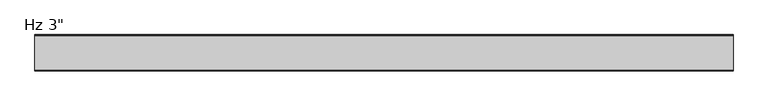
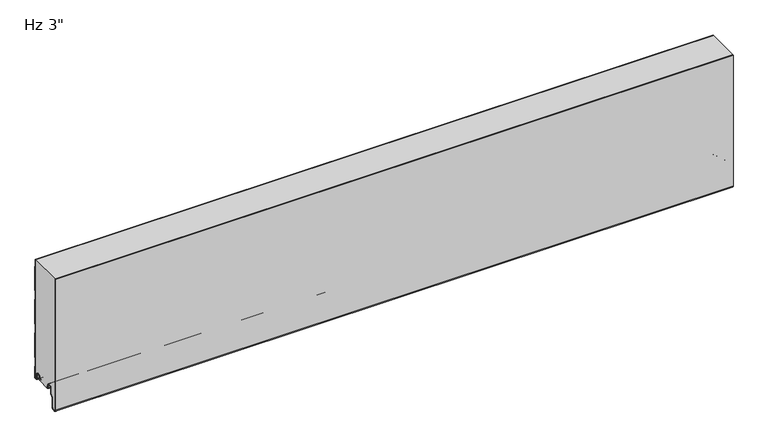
"""IFC4 building model written with IfcOpenShell, lengths in millimetres: plate geometry."""

from ifc_helpers import new_model, si_unit, point, frame, frame_2d, origin, place, context, project, spatial, polyline, circle_curve, trimmed, segment, composite_curve, outline, extrude, source, transform, mapped, element, save
from ifc_brep_helpers import plane_surface, cylinder_surface, revolved_surface, advanced_brep


def plate_96618327(model_context):
    return source(origin(), model_context, "Body", "SolidModel", [
        advanced_brep(
        [(-730.0, -17.0015159, 2.0313088), (-730.0, -18.0015191, 1.0313116), (-730.0, -19.0015105, 2.0313088), (-730.0, -19.0015105, 6.0315125), (-730.0, -18.0015159, 6.0315125), (-730.0, -18.0015159, 8.7237223), (-730.0, -14.7015202, 12.023718), (-730.0, -10.301529, 12.023718), (-730.0, -7.0015335, 8.7237225), (-730.0, -7.0015335, -1.6962564), (-730.0, -5.2315393, -3.4662506), (-730.0, -0.9999916, -3.4662506), (-730.0, -0.9999916, 21.034026), (-730.0, -2.2002307, 22.4196686), (-730.0, -2.2002307, 41.7948349), (-730.0, -1.0, 43.1804679), (-730.0, -1.0, 97.2338833), (-730.0, -2.2002307, 98.6195162), (-730.0, -2.2002307, 117.9946825), (-730.0, -1.0, 119.3803155), (-730.0, -1.0, 173.4337309), (-730.0, -2.2002307, 174.8193638), (-730.0, -2.2002307, 194.1945301), (-730.0, -1.0, 195.5801631), (-730.0, -1.0, 249.6335785), (-730.0, -2.2002307, 251.0192114), (-730.0, -2.2002307, 266.4), (-730.0, -1.2002307, 266.4), (-730.0, -1.2002307, 251.3920919), (-730.0, -0.3417885, 250.4010442), (-730.0, 0.0, 249.4844273), (-730.0, 0.0, 195.7293142), (-730.0, -0.3417885, 194.8126973), (-730.0, -1.2002307, 193.8216497), (-730.0, -1.2002307, 175.1922443), (-730.0, -0.3417885, 174.2011966), (-730.0, 0.0, 173.2845797), (-730.0, 0.0, 119.5294666), (-730.0, -0.3417885, 118.6128497), (-730.0, -1.2002307, 117.6218021), (-730.0, -1.2002307, 98.9923967), (-730.0, -0.3417885, 98.001349), (-730.0, 0.0, 97.0847321), (-730.0, 0.0, 43.329619), (-730.0, -0.3417885, 42.4130021), (-730.0, -1.2002307, 41.4219545), (-730.0, -1.2002307, 22.7925491), (-730.0, -0.3417885, 21.8015014), (-730.0, 0.0, 20.8847931), (-730.0, 8.4e-06, -3.0662545), (-730.0, -1.3999878, -4.4662506), (-730.0, -5.2315393, -4.4662506), (-730.0, -8.0015335, -1.6962564), (-730.0, -8.0015335, 8.7237225), (-730.0, -10.301529, 11.023718), (-730.0, -14.7015202, 11.023718), (-730.0, -17.0015159, 8.7237223), (730.0, -17.0015159, 2.0313088), (730.0, -17.0015159, 8.7237223), (730.0, -14.7015202, 11.023718), (730.0, -10.301529, 11.023718), (730.0, -8.0015335, 8.7237225), (730.0, -8.0015335, -1.6962564), (730.0, -5.2315393, -4.4662506), (730.0, -1.3999878, -4.4662506), (730.0, 8.4e-06, -3.0662545), (730.0, 8.4e-06, 20.8848845), (730.0, -0.3417885, 21.8015014), (730.0, -1.2002307, 22.7925491), (730.0, -1.2002307, 41.4219545), (730.0, -0.3417885, 42.4130021), (730.0, 0.0, 43.329619), (730.0, 0.0, 97.0847321), (730.0, -0.3417885, 98.001349), (730.0, -1.2002307, 98.9923967), (730.0, -1.2002307, 117.6218021), (730.0, -0.3417885, 118.6128497), (730.0, 0.0, 119.5294666), (730.0, 0.0, 173.2845797), (730.0, -0.3417885, 174.2011966), (730.0, -1.2002307, 175.1922443), (730.0, -1.2002307, 193.8216497), (730.0, -0.3417885, 194.8126973), (730.0, 0.0, 195.7293142), (730.0, 0.0, 249.4844273), (730.0, -0.3417885, 250.4010442), (730.0, -1.2002307, 251.3920919), (730.0, -1.2002307, 266.4), (730.0, -2.2002307, 266.4), (730.0, -2.2002307, 251.0192114), (730.0, -1.0, 249.6335785), (730.0, -1.0, 195.5801631), (730.0, -2.2002307, 194.1945301), (730.0, -2.2002307, 174.8193638), (730.0, -1.0, 173.4337309), (730.0, -1.0, 119.3803155), (730.0, -2.2002307, 117.9946825), (730.0, -2.2002307, 98.6195162), (730.0, -1.0, 97.2338833), (730.0, -1.0, 43.1804679), (730.0, -2.2002307, 41.7948349), (730.0, -2.2002307, 22.4196686), (730.0, -0.9999916, 21.034026), (730.0, -0.9999916, -3.4662506), (730.0, -5.2315393, -3.4662506), (730.0, -7.0015335, -1.6962564), (730.0, -7.0015335, 8.7237225), (730.0, -10.301529, 12.023718), (730.0, -14.7015202, 12.023718), (730.0, -18.0015159, 8.7237223), (730.0, -18.0015159, 6.0315125), (730.0, -19.0015105, 6.0315125), (730.0, -19.0015105, 2.0313088), (730.0, -18.0015192, 1.0313116)],
        [
            (0, 1, circle_curve(frame((-730.0, -18.0015132, 2.0313088), z_axis=(-1.0, 0.0, 0.0), x_axis=(0.0, 0.0, 1.0)), 0.9999973)),
            (1, 2, circle_curve(frame((-730.0, -18.0015133, 2.0313088), z_axis=(-1.0, 0.0, 0.0), x_axis=(0.0, 0.0, 1.0)), 0.9999972)),
            (2, 3),
            (3, 4),
            (4, 5),
            (5, 6, circle_curve(frame((-730.0, -14.7015202, 8.7237223), z_axis=(-1.0, 0.0, 0.0), x_axis=(0.0, 0.0, 1.0)), 3.2999957)),
            (6, 7),
            (7, 8, circle_curve(frame((-730.0, -10.301529, 8.7237225), z_axis=(-1.0, 0.0, 0.0), x_axis=(0.0, 0.0, 1.0)), 3.2999955)),
            (8, 9),
            (9, 10, circle_curve(frame((-730.0, -5.2315393, -1.6962564), z_axis=(1.0, 0.0, 0.0), x_axis=(0.0, 0.0, 1.0)), 1.7699942)),
            (10, 11),
            (11, 12),
            (12, 13),
            (13, 14),
            (14, 15),
            (15, 16),
            (16, 17),
            (17, 18),
            (18, 19),
            (19, 20),
            (20, 21),
            (21, 22),
            (22, 23),
            (23, 24),
            (24, 25),
            (25, 26),
            (26, 27),
            (27, 28),
            (28, 29),
            (29, 30, circle_curve(frame((-730.0, -1.3999972, 249.4844273), z_axis=(-1.0, 0.0, 0.0), x_axis=(0.0, 0.0, 1.0)), 1.3999972)),
            (30, 31),
            (31, 32, circle_curve(frame((-730.0, -1.3999972, 195.7293142), z_axis=(-1.0, 0.0, 0.0), x_axis=(0.0, 0.0, 1.0)), 1.3999972)),
            (32, 33),
            (33, 34),
            (34, 35),
            (35, 36, circle_curve(frame((-730.0, -1.3999972, 173.2845797), z_axis=(-1.0, 0.0, 0.0), x_axis=(0.0, 0.0, 1.0)), 1.3999972)),
            (36, 37),
            (37, 38, circle_curve(frame((-730.0, -1.3999972, 119.5294666), z_axis=(-1.0, 0.0, 0.0), x_axis=(0.0, 0.0, 1.0)), 1.3999972)),
            (38, 39),
            (39, 40),
            (40, 41),
            (41, 42, circle_curve(frame((-730.0, -1.3999972, 97.0847321), z_axis=(-1.0, 0.0, 0.0), x_axis=(0.0, 0.0, 1.0)), 1.3999972)),
            (42, 43),
            (43, 44, circle_curve(frame((-730.0, -1.3999972, 43.329619), z_axis=(-1.0, 0.0, 0.0), x_axis=(0.0, 0.0, 1.0)), 1.3999972)),
            (44, 45),
            (45, 46),
            (46, 47),
            (47, 48, circle_curve(frame((-730.0, -1.3999972, 20.8848845), z_axis=(-1.0, 0.0, 0.0), x_axis=(0.0, 0.0, 1.0)), 1.3999972)),
            (48, 49),
            (49, 50, circle_curve(frame((-730.0, -1.3999878, -3.0662545), z_axis=(-1.0, 0.0, 0.0), x_axis=(0.0, 0.0, 1.0)), 1.3999962)),
            (50, 51),
            (51, 52, circle_curve(frame((-730.0, -5.2315393, -1.6962564), z_axis=(-1.0, 0.0, 0.0), x_axis=(0.0, 0.0, 1.0)), 2.7699942)),
            (52, 53),
            (53, 54, circle_curve(frame((-730.0, -10.301529, 8.7237225), z_axis=(1.0, 0.0, 0.0), x_axis=(0.0, 0.0, 1.0)), 2.2999955)),
            (54, 55),
            (55, 56, circle_curve(frame((-730.0, -14.7015202, 8.7237223), z_axis=(1.0, 0.0, 0.0), x_axis=(0.0, 0.0, 1.0)), 2.2999957)),
            (56, 0),
            (57, 58),
            (58, 59, circle_curve(frame((730.0, -14.7015202, 8.7237223), z_axis=(-1.0, 0.0, 0.0), x_axis=(0.0, 0.0, 1.0)), 2.2999957)),
            (59, 60),
            (60, 61, circle_curve(frame((730.0, -10.301529, 8.7237225), z_axis=(-1.0, 0.0, 0.0), x_axis=(0.0, 0.0, 1.0)), 2.2999955)),
            (61, 62),
            (62, 63, circle_curve(frame((730.0, -5.2315393, -1.6962564), z_axis=(1.0, 0.0, 0.0), x_axis=(0.0, 0.0, 1.0)), 2.7699942)),
            (63, 64),
            (64, 65, circle_curve(frame((730.0, -1.3999878, -3.0662545), z_axis=(1.0, 0.0, 0.0), x_axis=(0.0, 0.0, 1.0)), 1.3999962)),
            (65, 66),
            (66, 67, circle_curve(frame((730.0, -1.3999972, 20.8848845), z_axis=(1.0, 0.0, 0.0), x_axis=(0.0, 0.0, 1.0)), 1.3999972)),
            (67, 68),
            (68, 69),
            (69, 70),
            (70, 71, circle_curve(frame((730.0, -1.3999972, 43.329619), z_axis=(1.0, 0.0, 0.0), x_axis=(0.0, 0.0, 1.0)), 1.3999972)),
            (71, 72),
            (72, 73, circle_curve(frame((730.0, -1.3999972, 97.0847321), z_axis=(1.0, 0.0, 0.0), x_axis=(0.0, 0.0, 1.0)), 1.3999972)),
            (73, 74),
            (74, 75),
            (75, 76),
            (76, 77, circle_curve(frame((730.0, -1.3999972, 119.5294666), z_axis=(1.0, 0.0, 0.0), x_axis=(0.0, 0.0, 1.0)), 1.3999972)),
            (77, 78),
            (78, 79, circle_curve(frame((730.0, -1.3999972, 173.2845797), z_axis=(1.0, 0.0, 0.0), x_axis=(0.0, 0.0, 1.0)), 1.3999972)),
            (79, 80),
            (80, 81),
            (81, 82),
            (82, 83, circle_curve(frame((730.0, -1.3999972, 195.7293142), z_axis=(1.0, 0.0, 0.0), x_axis=(0.0, 0.0, 1.0)), 1.3999972)),
            (83, 84),
            (84, 85, circle_curve(frame((730.0, -1.3999972, 249.4844273), z_axis=(1.0, 0.0, 0.0), x_axis=(0.0, 0.0, 1.0)), 1.3999972)),
            (85, 86),
            (86, 87),
            (87, 88),
            (88, 89),
            (89, 90),
            (90, 91),
            (91, 92),
            (92, 93),
            (93, 94),
            (94, 95),
            (95, 96),
            (96, 97),
            (97, 98),
            (98, 99),
            (99, 100),
            (100, 101),
            (101, 102),
            (102, 103),
            (103, 104),
            (104, 105, circle_curve(frame((730.0, -5.2315393, -1.6962564), z_axis=(-1.0, 0.0, 0.0), x_axis=(0.0, 0.0, 1.0)), 1.7699942)),
            (105, 106),
            (106, 107, circle_curve(frame((730.0, -10.301529, 8.7237225), z_axis=(1.0, 0.0, 0.0), x_axis=(0.0, 0.0, 1.0)), 3.2999955)),
            (107, 108),
            (108, 109, circle_curve(frame((730.0, -14.7015202, 8.7237223), z_axis=(1.0, 0.0, 0.0), x_axis=(0.0, 0.0, 1.0)), 3.2999957)),
            (109, 110),
            (110, 111),
            (111, 112),
            (112, 113, circle_curve(frame((730.0, -18.0015133, 2.0313088), z_axis=(1.0, 0.0, 0.0), x_axis=(0.0, 0.0, 1.0)), 0.9999972)),
            (113, 57, circle_curve(frame((730.0, -18.0015132, 2.0313088), z_axis=(1.0, 0.0, 0.0), x_axis=(0.0, 0.0, 1.0)), 0.9999973)),
            (26, 88),
            (87, 27),
            (56, 58),
            (57, 0),
            (55, 59),
            (54, 60),
            (53, 61),
            (52, 62),
            (51, 63),
            (50, 64),
            (49, 65),
            (48, 66),
            (47, 67),
            (46, 68),
            (45, 69),
            (44, 70),
            (43, 71),
            (42, 72),
            (41, 73),
            (40, 74),
            (39, 75),
            (38, 76),
            (37, 77),
            (36, 78),
            (19, 95),
            (94, 20),
            (18, 96),
            (17, 97),
            (16, 98),
            (15, 99),
            (14, 100),
            (13, 101),
            (12, 102),
            (11, 103),
            (10, 104),
            (9, 105),
            (8, 106),
            (7, 107),
            (6, 108),
            (5, 109),
            (4, 110),
            (3, 111),
            (2, 112),
            (1, 113),
            (35, 79),
            (34, 80),
            (33, 81),
            (32, 82),
            (31, 83),
            (30, 84),
            (29, 85),
            (28, 86),
            (25, 89),
            (24, 90),
            (23, 91),
            (22, 92),
            (21, 93),
        ],
        [
            plane_surface(frame((-730.0, 0.0, 533.4), z_axis=(-1.0, 0.0, 0.0), x_axis=(0.0, 1.0, 0.0))),
            plane_surface(frame((730.0, 0.0, 533.4), z_axis=(1.0, 0.0, 0.0), x_axis=(0.0, 1.0, 0.0))),
            plane_surface(frame((730.0, 10.0, 266.4), z_axis=(0.0, 0.0, 1.0), x_axis=(-1.0, 0.0, 0.0))),
            plane_surface(frame((-730.0, -17.0015159, 2.0313088), z_axis=(0.0, 1.0, 0.0), x_axis=(1.0, 0.0, 0.0))),
            revolved_surface(polyline([(730.0, -14.7015202, 11.023718), (-730.0, -14.7015202, 11.023718)]), (-730.0, -14.7015202, 8.7237223), (1.0, 0.0, 0.0)),
            plane_surface(frame((-730.0, -14.7015202, 11.023718), z_axis=(0.0, 0.0, -1.0), x_axis=(1.0, 0.0, 0.0))),
            revolved_surface(polyline([(730.0, -10.301529, 11.023717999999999), (-730.0, -10.301529, 11.023717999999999)]), (-730.0, -10.301529, 8.7237225), (1.0, 0.0, 0.0)),
            plane_surface(frame((-730.0, -8.0015335, 8.7237225), z_axis=(0.0, -1.0, 0.0), x_axis=(1.0, 0.0, 0.0))),
            cylinder_surface(frame((-730.0, -5.2315393, -1.6962564), z_axis=(-1.0, 0.0, 0.0), x_axis=(0.0, 0.0, 1.0)), 2.7699942),
            plane_surface(frame((-730.0, -5.2315393, -4.4662506), z_axis=(0.0, 0.0, -1.0), x_axis=(1.0, 0.0, 0.0))),
            cylinder_surface(frame((-730.0, -1.3999878, -3.0662545), z_axis=(-1.0, 0.0, 0.0), x_axis=(0.0, 0.0, 1.0)), 1.3999962),
            plane_surface(frame((-730.0, 8.4e-06, -3.0662545), z_axis=(0.0, 1.0, 0.0), x_axis=(1.0, 0.0, 0.0))),
            cylinder_surface(frame((-730.0, -1.3999972, 20.8848845), z_axis=(-1.0, 0.0, 0.0), x_axis=(0.0, 0.0, 1.0)), 1.3999972),
            plane_surface(frame((-730.0, -0.3417885, 21.8015014), z_axis=(0.0, 0.755864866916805, 0.6547276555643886), x_axis=(1.0, 0.0, 0.0))),
            plane_surface(frame((-730.0, -1.2002307, 32.1072518), z_axis=(0.0, 1.0, 0.0), x_axis=(1.0, 0.0, 0.0))),
            plane_surface(frame((-730.0, -1.2002307, 41.4219545), z_axis=(0.0, 0.755864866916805, -0.6547276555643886), x_axis=(1.0, 0.0, 0.0))),
            cylinder_surface(frame((-730.0, -1.3999972, 43.329619), z_axis=(-1.0, 0.0, 0.0), x_axis=(0.0, 0.0, 1.0)), 1.3999972),
            plane_surface(frame((-730.0, 0.0, 43.329619), z_axis=(0.0, 1.0, 0.0), x_axis=(1.0, 0.0, 0.0))),
            cylinder_surface(frame((-730.0, -1.3999972, 97.0847321), z_axis=(-1.0, 0.0, 0.0), x_axis=(0.0, 0.0, 1.0)), 1.3999972),
            plane_surface(frame((-730.0, -0.3417885, 98.001349), z_axis=(0.0, 0.755864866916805, 0.6547276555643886), x_axis=(1.0, 0.0, 0.0))),
            plane_surface(frame((-730.0, -1.2002307, 108.3070994), z_axis=(0.0, 1.0, 0.0), x_axis=(1.0, 0.0, 0.0))),
            plane_surface(frame((-730.0, -1.2002307, 117.6218021), z_axis=(0.0, 0.755864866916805, -0.6547276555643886), x_axis=(1.0, 0.0, 0.0))),
            cylinder_surface(frame((-730.0, -1.3999972, 119.5294666), z_axis=(-1.0, 0.0, 0.0), x_axis=(0.0, 0.0, 1.0)), 1.3999972),
            plane_surface(frame((-730.0, 0.0, 119.5294666), z_axis=(0.0, 1.0, 0.0), x_axis=(1.0, 0.0, 0.0))),
            plane_surface(frame((-730.0, -1.0, 173.4337309), z_axis=(0.0, -1.0, 0.0), x_axis=(1.0, 0.0, 0.0))),
            plane_surface(frame((-730.0, -1.0, 119.3803155), z_axis=(0.0, -0.755864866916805, 0.6547276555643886), x_axis=(1.0, 0.0, 0.0))),
            plane_surface(frame((-730.0, -2.2002307, 117.9946825), z_axis=(0.0, -1.0, 0.0), x_axis=(1.0, 0.0, 0.0))),
            plane_surface(frame((-730.0, -2.2002307, 98.6195162), z_axis=(0.0, -0.755864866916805, -0.6547276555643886), x_axis=(1.0, 0.0, 0.0))),
            plane_surface(frame((-730.0, -1.0, 97.2338833), z_axis=(0.0, -1.0, 0.0), x_axis=(1.0, 0.0, 0.0))),
            plane_surface(frame((-730.0, -1.0, 43.1804679), z_axis=(0.0, -0.755864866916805, 0.6547276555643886), x_axis=(1.0, 0.0, 0.0))),
            plane_surface(frame((-730.0, -2.2002307, 41.7948349), z_axis=(0.0, -1.0, 0.0), x_axis=(1.0, 0.0, 0.0))),
            plane_surface(frame((-730.0, -2.2002307, 22.4196686), z_axis=(0.0, -0.755864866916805, -0.6547276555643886), x_axis=(1.0, 0.0, 0.0))),
            plane_surface(frame((-730.0, -0.9999916, 21.034026), z_axis=(0.0, -1.0, 0.0), x_axis=(1.0, 0.0, 0.0))),
            plane_surface(frame((-730.0, -0.9999916, -3.4662506), z_axis=(0.0, 0.0, 1.0), x_axis=(1.0, 0.0, 0.0))),
            revolved_surface(polyline([(730.0, -5.2315393, 0.07373779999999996), (-730.0, -5.2315393, 0.07373779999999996)]), (-730.0, -5.2315393, -1.6962564), (1.0, 0.0, 0.0)),
            plane_surface(frame((-730.0, -7.0015335, -1.6962564), z_axis=(0.0, 1.0, 0.0), x_axis=(1.0, 0.0, 0.0))),
            cylinder_surface(frame((-730.0, -10.301529, 8.7237225), z_axis=(-1.0, 0.0, 0.0), x_axis=(0.0, 0.0, 1.0)), 3.2999955),
            plane_surface(frame((-730.0, -10.301529, 12.023718), z_axis=(0.0, 0.0, 1.0), x_axis=(1.0, 0.0, 0.0))),
            cylinder_surface(frame((-730.0, -14.7015202, 8.7237223), z_axis=(-1.0, 0.0, 0.0), x_axis=(0.0, 0.0, 1.0)), 3.2999957),
            plane_surface(frame((-730.0, -18.0015159, 8.7237223), z_axis=(0.0, -1.0, 0.0), x_axis=(1.0, 0.0, 0.0))),
            plane_surface(frame((-730.0, -18.0015159, 6.0315125), z_axis=(0.0, 0.0, 1.0), x_axis=(1.0, 0.0, 0.0))),
            plane_surface(frame((-730.0, -19.0015105, 6.0315125), z_axis=(0.0, -1.0, 0.0), x_axis=(1.0, 0.0, 0.0))),
            cylinder_surface(frame((-730.0, -18.0015133, 2.0313088), z_axis=(-1.0, 0.0, 0.0), x_axis=(0.0, 0.0, 1.0)), 0.9999972),
            cylinder_surface(frame((-730.0, -18.0015132, 2.0313088), z_axis=(-1.0, 0.0, 0.0), x_axis=(0.0, 0.0, 1.0)), 0.9999973),
            cylinder_surface(frame((-730.0, -1.3999972, 173.2845797), z_axis=(-1.0, 0.0, 0.0), x_axis=(0.0, 0.0, 1.0)), 1.3999972),
            plane_surface(frame((-730.0, -0.3417885, 174.2011966), z_axis=(0.0, 0.755864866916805, 0.6547276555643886), x_axis=(1.0, 0.0, 0.0))),
            plane_surface(frame((-730.0, -1.2002307, 184.506947), z_axis=(0.0, 1.0, 0.0), x_axis=(1.0, 0.0, 0.0))),
            plane_surface(frame((-730.0, -1.2002307, 193.8216497), z_axis=(0.0, 0.755864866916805, -0.6547276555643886), x_axis=(1.0, 0.0, 0.0))),
            cylinder_surface(frame((-730.0, -1.3999972, 195.7293142), z_axis=(-1.0, 0.0, 0.0), x_axis=(0.0, 0.0, 1.0)), 1.3999972),
            plane_surface(frame((-730.0, 0.0, 195.7293142), z_axis=(0.0, 1.0, 0.0), x_axis=(1.0, 0.0, 0.0))),
            cylinder_surface(frame((-730.0, -1.3999972, 249.4844273), z_axis=(-1.0, 0.0, 0.0), x_axis=(0.0, 0.0, 1.0)), 1.3999972),
            plane_surface(frame((-730.0, -0.3417885, 250.4010442), z_axis=(0.0, 0.755864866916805, 0.6547276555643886), x_axis=(1.0, 0.0, 0.0))),
            plane_surface(frame((-730.0, -1.2002307, 260.7067946), z_axis=(0.0, 1.0, 0.0), x_axis=(1.0, 0.0, 0.0))),
            plane_surface(frame((-730.0, -2.2002307, 270.3943777), z_axis=(0.0, -1.0, 0.0), x_axis=(1.0, 0.0, 0.0))),
            plane_surface(frame((-730.0, -2.2002307, 251.0192114), z_axis=(0.0, -0.755864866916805, -0.6547276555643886), x_axis=(1.0, 0.0, 0.0))),
            plane_surface(frame((-730.0, -1.0, 249.6335785), z_axis=(0.0, -1.0, 0.0), x_axis=(1.0, 0.0, 0.0))),
            plane_surface(frame((-730.0, -1.0, 195.5801631), z_axis=(0.0, -0.755864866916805, 0.6547276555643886), x_axis=(1.0, 0.0, 0.0))),
            plane_surface(frame((-730.0, -2.2002307, 194.1945301), z_axis=(0.0, -1.0, 0.0), x_axis=(1.0, 0.0, 0.0))),
            plane_surface(frame((-730.0, -2.2002307, 174.8193638), z_axis=(0.0, -0.755864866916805, -0.6547276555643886), x_axis=(1.0, 0.0, 0.0))),
        ],
        [
            (0, [[1, 2, 3, 4, 5, 6, 7, 8, 9, 10, 11, 12, 13, 14, 15, 16, 17, 18, 19, 20, 21, 22, 23, 24, 25, 26, 27, 28, 29, 30, 31, 32, 33, 34, 35, 36, 37, 38, 39, 40, 41, 42, 43, 44, 45, 46, 47, 48, 49, 50, 51, 52, 53, 54, 55, 56, 57]]),
            (1, [[58, 59, 60, 61, 62, 63, 64, 65, 66, 67, 68, 69, 70, 71, 72, 73, 74, 75, 76, 77, 78, 79, 80, 81, 82, 83, 84, 85, 86, 87, 88, 89, 90, 91, 92, 93, 94, 95, 96, 97, 98, 99, 100, 101, 102, 103, 104, 105, 106, 107, 108, 109, 110, 111, 112, 113, 114]]),
            (2, [[115, -88, 116, -27]]),
            (3, [[117, -58, 118, -57]]),
            (4, [[119, -59, -117, -56]]),
            (5, [[120, -60, -119, -55]]),
            (6, [[121, -61, -120, -54]]),
            (7, [[122, -62, -121, -53]]),
            (8, [[123, -63, -122, -52]]),
            (9, [[124, -64, -123, -51]]),
            (10, [[125, -65, -124, -50]]),
            (11, [[126, -66, -125, -49]]),
            (12, [[127, -67, -126, -48]]),
            (13, [[128, -68, -127, -47]]),
            (14, [[129, -69, -128, -46]]),
            (15, [[130, -70, -129, -45]]),
            (16, [[131, -71, -130, -44]]),
            (17, [[132, -72, -131, -43]]),
            (18, [[133, -73, -132, -42]]),
            (19, [[134, -74, -133, -41]]),
            (20, [[135, -75, -134, -40]]),
            (21, [[136, -76, -135, -39]]),
            (22, [[137, -77, -136, -38]]),
            (23, [[138, -78, -137, -37]]),
            (24, [[139, -95, 140, -20]]),
            (25, [[141, -96, -139, -19]]),
            (26, [[142, -97, -141, -18]]),
            (27, [[143, -98, -142, -17]]),
            (28, [[144, -99, -143, -16]]),
            (29, [[145, -100, -144, -15]]),
            (30, [[146, -101, -145, -14]]),
            (31, [[147, -102, -146, -13]]),
            (32, [[148, -103, -147, -12]]),
            (33, [[149, -104, -148, -11]]),
            (34, [[150, -105, -149, -10]]),
            (35, [[151, -106, -150, -9]]),
            (36, [[152, -107, -151, -8]]),
            (37, [[153, -108, -152, -7]]),
            (38, [[154, -109, -153, -6]]),
            (39, [[155, -110, -154, -5]]),
            (40, [[156, -111, -155, -4]]),
            (41, [[157, -112, -156, -3]]),
            (42, [[158, -113, -157, -2]]),
            (43, [[-118, -114, -158, -1]]),
            (44, [[159, -79, -138, -36]]),
            (45, [[160, -80, -159, -35]]),
            (46, [[161, -81, -160, -34]]),
            (47, [[162, -82, -161, -33]]),
            (48, [[163, -83, -162, -32]]),
            (49, [[164, -84, -163, -31]]),
            (50, [[165, -85, -164, -30]]),
            (51, [[166, -86, -165, -29]]),
            (52, [[-28, -116, -87, -166]]),
            (53, [[-89, -115, -26, 167]]),
            (54, [[168, -90, -167, -25]]),
            (55, [[169, -91, -168, -24]]),
            (56, [[170, -92, -169, -23]]),
            (57, [[171, -93, -170, -22]]),
            (58, [[-140, -94, -171, -21]]),
        ],
    ),
        extrude(outline(composite_curve([segment(trimmed(circle_curve(frame_2d((-72.6304001, -32.4521176)), 3.5702393), [point((-72.3191297, -36.008762))], [point((-76.2, -32.5196853))], False, "CARTESIAN"), True, "CONTINUOUS"), segment(polyline([(-76.2, -32.5196853), (-76.2, 266.4), (-75.2, 266.4), (-75.2, -32.509446)]), True, "CONTINUOUS"), segment(trimmed(circle_curve(frame_2d((-72.6304001, -32.4521176)), 2.5702393), [point((-75.2, -32.509446))], [point((-72.4063145, -35.0125699))], True, "CARTESIAN"), True, "CONTINUOUS"), segment(polyline([(-72.4063145, -35.0125699), (-67.4244936, -34.5765709)]), True, "CONTINUOUS"), segment(trimmed(circle_curve(frame_2d((-67.9058842, -31.9198392)), 2.6999926), [point((-67.4244936, -34.5765709))], [point((-65.2058916, -31.9198392))], True, "CARTESIAN"), True, "CONTINUOUS"), segment(polyline([(-65.2058916, -31.9198392), (-65.2058916, -9.8247096), (-59.7038205, -4.3226385)]), True, "CONTINUOUS"), segment(trimmed(circle_curve(frame_2d((-60.9058982, -3.1205608)), 1.6999946), [point((-59.7038205, -4.3226385))], [point((-59.2059036, -3.1205608))], True, "CARTESIAN"), True, "CONTINUOUS"), segment(polyline([(-59.2059036, -3.1205608), (-59.2059036, 8.6903283)]), True, "CONTINUOUS"), segment(trimmed(circle_curve(frame_2d((-55.8559083, 8.6903283)), 3.3499953), [point((-59.2059036, 8.6903283))], [point((-55.8559083, 12.0403236))], False, "CARTESIAN"), True, "CONTINUOUS"), segment(polyline([(-55.8559083, 12.0403236), (-51.4559171, 12.0403236)]), True, "CONTINUOUS"), segment(trimmed(circle_curve(frame_2d((-51.4559171, 8.6903283)), 3.3499953), [point((-51.4559171, 12.0403236))], [point((-48.1059218, 8.6903283))], False, "CARTESIAN"), True, "CONTINUOUS"), segment(polyline([(-48.1059218, 8.6903283), (-48.1059218, 5.9912173), (-46.7074429, 5.9912173), (-46.7074429, 2.2328239)]), True, "CONTINUOUS"), segment(trimmed(circle_curve(frame_2d((-47.9074396, 2.2313092)), 1.1999976), [point((-46.7074429, 2.2328239))], [point((-47.8769177, 1.0316999))], False, "CARTESIAN"), True, "CONTINUOUS"), segment(trimmed(circle_curve(frame_2d((-47.9074396, 2.2313092)), 1.1999976), [point((-47.8769177, 1.0316999))], [point((-49.1059218, 2.1710221))], False, "CARTESIAN"), True, "CONTINUOUS"), segment(polyline([(-49.1059218, 2.1710221), (-49.1059218, 8.6903283)]), True, "CONTINUOUS"), segment(trimmed(circle_curve(frame_2d((-51.4559171, 8.6903283)), 2.3499953), [point((-49.1059218, 8.6903283))], [point((-51.4559171, 11.0403236))], True, "CARTESIAN"), True, "CONTINUOUS"), segment(polyline([(-51.4559171, 11.0403236), (-55.8559083, 11.0403236)]), True, "CONTINUOUS"), segment(trimmed(circle_curve(frame_2d((-55.8559083, 8.6903283)), 2.3499953), [point((-55.8559083, 11.0403236))], [point((-58.2059036, 8.6903283))], True, "CARTESIAN"), True, "CONTINUOUS"), segment(polyline([(-58.2059036, 8.6903283), (-58.2059036, -3.1205608)]), True, "CONTINUOUS"), segment(trimmed(circle_curve(frame_2d((-60.9058982, -3.1205608)), 2.6999946), [point((-58.2059036, -3.1205608))], [point((-58.9967137, -5.0297453))], False, "CARTESIAN"), True, "CONTINUOUS"), segment(polyline([(-58.9967137, -5.0297453), (-63.8251312, -9.8581627)]), True, "CONTINUOUS"), segment(trimmed(circle_curve(frame_2d((-62.9058942, -10.7773997)), 1.2999974), [point((-63.8251312, -9.8581627))], [point((-64.2058916, -10.7773997))], True, "CARTESIAN"), True, "CONTINUOUS"), segment(polyline([(-64.2058916, -10.7773997), (-64.2058916, -31.9198392)]), True, "CONTINUOUS"), segment(trimmed(circle_curve(frame_2d((-67.9058842, -31.9198392)), 3.6999926), [point((-64.2058916, -31.9198392))], [point((-67.2950831, -35.5690675))], False, "CARTESIAN"), True, "CONTINUOUS"), segment(polyline([(-67.2950831, -35.5690675), (-72.3191297, -36.008762)]), True, "CONTINUOUS")], self_intersect=False)), frame((-730.0, 0.0, 0.0), z_axis=(1.0, 0.0, 0.0), x_axis=(0.0, 1.0, 0.0)), (0.0, 0.0, 1.0), 1460.0),
        advanced_brep(
        [(-730.0, -47.870875, 1.0316999), (-730.0, -46.7014003, 2.2328239), (-730.0, -46.7014003, 5.9912173), (-730.0, -48.0998791, 5.9912173), (-730.0, -48.0998791, 8.6903283), (-730.0, -51.4498744, 12.0403236), (-730.0, -55.8498656, 12.0403236), (-730.0, -59.1998609, 8.6903283), (-730.0, -59.1998609, -3.1205608), (-730.0, -59.6977778, -4.3226385), (-730.0, -65.1998489, -9.8247096), (-730.0, -65.1998489, -31.9198392), (-730.0, -67.4184509, -34.5765709), (-730.0, -72.4002718, -35.0125699), (-730.0, -75.1945967, -32.4521176), (-730.0, -75.2, 266.4), (-730.0, -2.2002307, 266.4), (-730.0, -2.2002307, 251.0192115), (-730.0, -1.0, 249.6335785), (-730.0, -1.0, 195.5801631), (-730.0, -2.2002307, 194.1945302), (-730.0, -2.2002307, 174.8193639), (-730.0, -1.0, 173.4337309), (-730.0, -1.0, 119.3803155), (-730.0, -2.2002307, 117.9946826), (-730.0, -2.2002307, 98.6195163), (-730.0, -1.0, 97.2338833), (-730.0, -1.0, 43.1804679), (-730.0, -2.2002307, 41.794835), (-730.0, -2.2002307, 22.4196687), (-730.0, -0.9999916, 21.034026), (-730.0, -0.9999916, -3.4662506), (-730.0, -5.2315389, -3.4662506), (-730.0, -7.0015331, -1.6962564), (-730.0, -7.0015331, 8.7237222), (-730.0, -10.301529, 12.023718), (-730.0, -14.7015202, 12.023718), (-730.0, -18.0015159, 8.7237223), (-730.0, -18.0015159, 6.0315125), (-730.0, -19.0015105, 6.0315125), (-730.0, -19.0015105, 2.0313089), (-730.0, -18.0015192, 1.0313117), (-730.0, -19.0328308, 0.0), (-730.0, -46.8391751, 0.0), (730.0, -47.870875, 1.0316999), (730.0, -46.8391751, 0.0), (730.0, -19.0328308, 0.0), (730.0, -18.0015192, 1.0313117), (730.0, -19.0015105, 2.0313089), (730.0, -19.0015105, 6.0315125), (730.0, -18.0015159, 6.0315125), (730.0, -18.0015159, 8.7237223), (730.0, -14.7015202, 12.023718), (730.0, -10.301529, 12.023718), (730.0, -7.0015331, 8.7237222), (730.0, -7.0015331, -1.6962564), (730.0, -5.2315389, -3.4662506), (730.0, -0.9999916, -3.4662506), (730.0, -0.9999916, 21.034026), (730.0, -2.2002307, 22.4196687), (730.0, -2.2002307, 41.794835), (730.0, -1.0, 43.1804679), (730.0, -1.0, 97.2338833), (730.0, -2.2002307, 98.6195163), (730.0, -2.2002307, 117.9946826), (730.0, -1.0, 119.3803155), (730.0, -1.0, 173.4337309), (730.0, -2.2002307, 174.8193639), (730.0, -2.2002307, 194.1945302), (730.0, -1.0, 195.5801631), (730.0, -1.0, 249.6335785), (730.0, -2.2002307, 251.0192115), (730.0, -2.2002307, 266.4), (730.0, -75.2, 266.4), (730.0, -75.2, -32.4521176), (730.0, -72.4002718, -35.0125699), (730.0, -67.4184509, -34.5765709), (730.0, -65.1998489, -31.9198392), (730.0, -65.1998489, -9.8247096), (730.0, -59.6977778, -4.3226385), (730.0, -59.1998609, -3.1205608), (730.0, -59.1998609, 8.6903283), (730.0, -55.8498656, 12.0403236), (730.0, -51.4498744, 12.0403236), (730.0, -48.0998791, 8.6903283), (730.0, -48.0998791, 5.9912173), (730.0, -46.7014003, 5.9912173), (730.0, -46.7014003, 2.2328239)],
        [
            (0, 1, circle_curve(frame((-730.0, -47.9013969, 2.2313092), z_axis=(1.0, 0.0, 0.0), x_axis=(0.0, 0.0, -1.0)), 1.1999976)),
            (1, 2),
            (2, 3),
            (3, 4),
            (4, 5, circle_curve(frame((-730.0, -51.4498744, 8.6903283), z_axis=(1.0, 0.0, 0.0), x_axis=(0.0, 0.0, -1.0)), 3.3499953)),
            (5, 6),
            (6, 7, circle_curve(frame((-730.0, -55.8498656, 8.6903283), z_axis=(1.0, 0.0, 0.0), x_axis=(0.0, 0.0, -1.0)), 3.3499953)),
            (7, 8),
            (8, 9, circle_curve(frame((-730.0, -60.8998555, -3.1205608), z_axis=(-1.0, 0.0, 0.0), x_axis=(0.0, 0.0, -1.0)), 1.6999946)),
            (9, 10),
            (10, 11),
            (11, 12, circle_curve(frame((-730.0, -67.8998415, -31.9198392), z_axis=(-1.0, 0.0, 0.0), x_axis=(0.0, 0.0, -1.0)), 2.6999926)),
            (12, 13),
            (13, 14, circle_curve(frame((-730.0, -72.6243575, -32.4521176), z_axis=(-1.0, 0.0, 0.0), x_axis=(0.0, 0.0, -1.0)), 2.5702393)),
            (14, 15),
            (15, 16),
            (16, 17),
            (17, 18),
            (18, 19),
            (19, 20),
            (20, 21),
            (21, 22),
            (22, 23),
            (23, 24),
            (24, 25),
            (25, 26),
            (26, 27),
            (27, 28),
            (28, 29),
            (29, 30),
            (30, 31),
            (31, 32),
            (32, 33, circle_curve(frame((-730.0, -5.2315389, -1.6962564), z_axis=(-1.0, 0.0, 0.0), x_axis=(0.0, 0.0, -1.0)), 1.7699942)),
            (33, 34),
            (34, 35, circle_curve(frame((-730.0, -10.301529, 8.7237222), z_axis=(1.0, 0.0, 0.0), x_axis=(0.0, 0.0, -1.0)), 3.2999959)),
            (35, 36),
            (36, 37, circle_curve(frame((-730.0, -14.7015202, 8.7237223), z_axis=(1.0, 0.0, 0.0), x_axis=(0.0, 0.0, -1.0)), 3.2999957)),
            (37, 38),
            (38, 39),
            (39, 40),
            (40, 41, circle_curve(frame((-730.0, -18.0015133, 2.0313089), z_axis=(1.0, 0.0, 0.0), x_axis=(0.0, 0.0, -1.0)), 0.9999972)),
            (41, 42),
            (42, 43),
            (43, 0),
            (44, 45),
            (45, 46),
            (46, 47),
            (47, 48, circle_curve(frame((730.0, -18.0015133, 2.0313089), z_axis=(-1.0, 0.0, 0.0), x_axis=(0.0, 0.0, -1.0)), 0.9999972)),
            (48, 49),
            (49, 50),
            (50, 51),
            (51, 52, circle_curve(frame((730.0, -14.7015202, 8.7237223), z_axis=(-1.0, 0.0, 0.0), x_axis=(0.0, 0.0, -1.0)), 3.2999957)),
            (52, 53),
            (53, 54, circle_curve(frame((730.0, -10.301529, 8.7237222), z_axis=(-1.0, 0.0, 0.0), x_axis=(0.0, 0.0, -1.0)), 3.2999959)),
            (54, 55),
            (55, 56, circle_curve(frame((730.0, -5.2315389, -1.6962564), z_axis=(1.0, 0.0, 0.0), x_axis=(0.0, 0.0, -1.0)), 1.7699942)),
            (56, 57),
            (57, 58),
            (58, 59),
            (59, 60),
            (60, 61),
            (61, 62),
            (62, 63),
            (63, 64),
            (64, 65),
            (65, 66),
            (66, 67),
            (67, 68),
            (68, 69),
            (69, 70),
            (70, 71),
            (71, 72),
            (72, 73),
            (73, 74),
            (74, 75, circle_curve(frame((730.0, -72.6243575, -32.4521176), z_axis=(1.0, 0.0, 0.0), x_axis=(0.0, 0.0, -1.0)), 2.5702393)),
            (75, 76),
            (76, 77, circle_curve(frame((730.0, -67.8998415, -31.9198392), z_axis=(1.0, 0.0, 0.0), x_axis=(0.0, 0.0, -1.0)), 2.6999926)),
            (77, 78),
            (78, 79),
            (79, 80, circle_curve(frame((730.0, -60.8998555, -3.1205608), z_axis=(1.0, 0.0, 0.0), x_axis=(0.0, 0.0, -1.0)), 1.6999946)),
            (80, 81),
            (81, 82, circle_curve(frame((730.0, -55.8498656, 8.6903283), z_axis=(-1.0, 0.0, 0.0), x_axis=(0.0, 0.0, -1.0)), 3.3499953)),
            (82, 83),
            (83, 84, circle_curve(frame((730.0, -51.4498744, 8.6903283), z_axis=(-1.0, 0.0, 0.0), x_axis=(0.0, 0.0, -1.0)), 3.3499953)),
            (84, 85),
            (85, 86),
            (86, 87),
            (87, 44, circle_curve(frame((730.0, -47.9013969, 2.2313092), z_axis=(-1.0, 0.0, 0.0), x_axis=(0.0, 0.0, -1.0)), 1.1999976)),
            (15, 73),
            (72, 16),
            (43, 45),
            (44, 0),
            (42, 46),
            (14, 74),
            (13, 75),
            (12, 76),
            (11, 77),
            (10, 78),
            (9, 79),
            (8, 80),
            (7, 81),
            (6, 82),
            (5, 83),
            (4, 84),
            (3, 85),
            (2, 86),
            (1, 87),
            (41, 47),
            (40, 48),
            (39, 49),
            (38, 50),
            (37, 51),
            (36, 52),
            (35, 53),
            (34, 54),
            (33, 55),
            (32, 56),
            (31, 57),
            (30, 58),
            (29, 59),
            (28, 60),
            (27, 61),
            (26, 62),
            (25, 63),
            (24, 64),
            (23, 65),
            (22, 66),
            (21, 67),
            (20, 68),
            (19, 69),
            (18, 70),
            (17, 71),
        ],
        [
            plane_surface(frame((-730.0, -75.2, 533.4), z_axis=(-1.0, 0.0, 0.0), x_axis=(0.0, -1.0, 0.0))),
            plane_surface(frame((730.0, -75.2, 533.4), z_axis=(1.0, 0.0, 0.0), x_axis=(0.0, -1.0, 0.0))),
            plane_surface(frame((730.0, 10.0, 266.4), z_axis=(0.0, 0.0, 1.0), x_axis=(-1.0, 0.0, 0.0))),
            plane_surface(frame((-730.0, -47.870875, 1.0316999), z_axis=(0.0, -0.7071067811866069, -0.7071067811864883), x_axis=(1.0, 0.0, 0.0))),
            plane_surface(frame((-730.0, -46.8391751, 0.0), z_axis=(0.0, 0.0, -1.0), x_axis=(1.0, 0.0, 0.0))),
            plane_surface(frame((-730.0, -75.2, 1018.3156233), z_axis=(0.0, -1.0, 0.0), x_axis=(1.0, 0.0, 0.0))),
            cylinder_surface(frame((-730.0, -72.6243575, -32.4521176), z_axis=(-1.0, 0.0, 0.0), x_axis=(0.0, 0.0, -1.0)), 2.5702393),
            plane_surface(frame((-730.0, -72.4002718, -35.0125699), z_axis=(0.0, 0.08718474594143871, -0.9961921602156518), x_axis=(1.0, 0.0, 0.0))),
            cylinder_surface(frame((-730.0, -67.8998415, -31.9198392), z_axis=(-1.0, 0.0, 0.0), x_axis=(0.0, 0.0, -1.0)), 2.6999926),
            plane_surface(frame((-730.0, -65.1998489, -31.9198392), z_axis=(0.0, 1.0, 0.0), x_axis=(1.0, 0.0, 0.0))),
            plane_surface(frame((-730.0, -65.1998489, -9.8247096), z_axis=(0.0, 0.7071067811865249, -0.7071067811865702), x_axis=(1.0, 0.0, 0.0))),
            cylinder_surface(frame((-730.0, -60.8998555, -3.1205608), z_axis=(-1.0, 0.0, 0.0), x_axis=(0.0, 0.0, -1.0)), 1.6999946),
            plane_surface(frame((-730.0, -59.1998609, -3.1205608), z_axis=(0.0, 1.0, 0.0), x_axis=(1.0, 0.0, 0.0))),
            revolved_surface(polyline([(730.0, -55.8498656, 5.340332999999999), (-730.0, -55.8498656, 5.340332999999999)]), (-730.0, -55.8498656, 8.6903283), (1.0, 0.0, 0.0)),
            plane_surface(frame((-730.0, -55.8498656, 12.0403236), z_axis=(0.0, 0.0, -1.0), x_axis=(1.0, 0.0, 0.0))),
            revolved_surface(polyline([(730.0, -51.4498744, 5.340332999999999), (-730.0, -51.4498744, 5.340332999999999)]), (-730.0, -51.4498744, 8.6903283), (1.0, 0.0, 0.0)),
            plane_surface(frame((-730.0, -48.0998791, 8.6903283), z_axis=(0.0, -1.0, 0.0), x_axis=(1.0, 0.0, 0.0))),
            plane_surface(frame((-730.0, -48.0998791, 5.9912173), z_axis=(0.0, 0.0, -1.0), x_axis=(1.0, 0.0, 0.0))),
            plane_surface(frame((-730.0, -46.7014003, 5.9912173), z_axis=(0.0, -1.0, 0.0), x_axis=(1.0, 0.0, 0.0))),
            revolved_surface(polyline([(730.0, -47.9013969, 1.0313116), (-730.0, -47.9013969, 1.0313116)]), (-730.0, -47.9013969, 2.2313092), (1.0, 0.0, 0.0)),
            plane_surface(frame((-730.0, -19.0328308, 0.0), z_axis=(0.0, 0.7071067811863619, -0.7071067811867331), x_axis=(1.0, 0.0, 0.0))),
            revolved_surface(polyline([(730.0, -18.0015133, 1.0313116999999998), (-730.0, -18.0015133, 1.0313116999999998)]), (-730.0, -18.0015133, 2.0313089), (1.0, 0.0, 0.0)),
            plane_surface(frame((-730.0, -19.0015105, 2.0313089), z_axis=(0.0, 1.0, 0.0), x_axis=(1.0, 0.0, 0.0))),
            plane_surface(frame((-730.0, -19.0015105, 6.0315125), z_axis=(0.0, 0.0, -1.0), x_axis=(1.0, 0.0, 0.0))),
            plane_surface(frame((-730.0, -18.0015159, 6.0315125), z_axis=(0.0, 1.0, 0.0), x_axis=(1.0, 0.0, 0.0))),
            revolved_surface(polyline([(730.0, -14.7015202, 5.4237266), (-730.0, -14.7015202, 5.4237266)]), (-730.0, -14.7015202, 8.7237223), (1.0, 0.0, 0.0)),
            plane_surface(frame((-730.0, -14.7015202, 12.023718), z_axis=(0.0, 0.0, -1.0), x_axis=(1.0, 0.0, 0.0))),
            revolved_surface(polyline([(730.0, -10.301529, 5.423726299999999), (-730.0, -10.301529, 5.423726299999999)]), (-730.0, -10.301529, 8.7237222), (1.0, 0.0, 0.0)),
            plane_surface(frame((-730.0, -7.0015331, 8.7237222), z_axis=(0.0, -1.0, 0.0), x_axis=(1.0, 0.0, 0.0))),
            cylinder_surface(frame((-730.0, -5.2315389, -1.6962564), z_axis=(-1.0, 0.0, 0.0), x_axis=(0.0, 0.0, -1.0)), 1.7699942),
            plane_surface(frame((-730.0, -5.2315389, -3.4662506), z_axis=(0.0, 0.0, -1.0), x_axis=(1.0, 0.0, 0.0))),
            plane_surface(frame((-730.0, -0.9999916, -3.4662506), z_axis=(0.0, 1.0, 0.0), x_axis=(1.0, 0.0, 0.0))),
            plane_surface(frame((-730.0, -0.9999916, 21.034026), z_axis=(0.0, 0.7558648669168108, 0.6547276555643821), x_axis=(1.0, 0.0, 0.0))),
            plane_surface(frame((-730.0, -2.2002307, 22.4196687), z_axis=(0.0, 1.0, 0.0), x_axis=(1.0, 0.0, 0.0))),
            plane_surface(frame((-730.0, -2.2002307, 41.794835), z_axis=(0.0, 0.7558648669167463, -0.6547276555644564), x_axis=(1.0, 0.0, 0.0))),
            plane_surface(frame((-730.0, -1.0, 43.1804679), z_axis=(0.0, 1.0, 0.0), x_axis=(1.0, 0.0, 0.0))),
            plane_surface(frame((-730.0, -1.0, 97.2338833), z_axis=(0.0, 0.7558648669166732, 0.6547276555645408), x_axis=(1.0, 0.0, 0.0))),
            plane_surface(frame((-730.0, -2.2002307, 98.6195163), z_axis=(0.0, 1.0, 0.0), x_axis=(1.0, 0.0, 0.0))),
            plane_surface(frame((-730.0, -2.2002307, 117.9946826), z_axis=(0.0, 0.7558648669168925, -0.6547276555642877), x_axis=(1.0, 0.0, 0.0))),
            plane_surface(frame((-730.0, -1.0, 119.3803155), z_axis=(0.0, 1.0, 0.0), x_axis=(1.0, 0.0, 0.0))),
            plane_surface(frame((-730.0, -1.0, 173.4337309), z_axis=(0.0, 0.7558648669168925, 0.6547276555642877), x_axis=(1.0, 0.0, 0.0))),
            plane_surface(frame((-730.0, -2.2002307, 174.8193639), z_axis=(0.0, 1.0, 0.0), x_axis=(1.0, 0.0, 0.0))),
            plane_surface(frame((-730.0, -2.2002307, 194.1945302), z_axis=(0.0, 0.7558648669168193, -0.6547276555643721), x_axis=(1.0, 0.0, 0.0))),
            plane_surface(frame((-730.0, -1.0, 195.5801631), z_axis=(0.0, 1.0, 0.0), x_axis=(1.0, 0.0, 0.0))),
            plane_surface(frame((-730.0, -1.0, 249.6335785), z_axis=(0.0, 0.7558648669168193, 0.6547276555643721), x_axis=(1.0, 0.0, 0.0))),
            plane_surface(frame((-730.0, -2.2002307, 251.0192115), z_axis=(0.0, 1.0, 0.0), x_axis=(1.0, 0.0, 0.0))),
        ],
        [
            (0, [[1, 2, 3, 4, 5, 6, 7, 8, 9, 10, 11, 12, 13, 14, 15, 16, 17, 18, 19, 20, 21, 22, 23, 24, 25, 26, 27, 28, 29, 30, 31, 32, 33, 34, 35, 36, 37, 38, 39, 40, 41, 42, 43, 44]]),
            (1, [[45, 46, 47, 48, 49, 50, 51, 52, 53, 54, 55, 56, 57, 58, 59, 60, 61, 62, 63, 64, 65, 66, 67, 68, 69, 70, 71, 72, 73, 74, 75, 76, 77, 78, 79, 80, 81, 82, 83, 84, 85, 86, 87, 88]]),
            (2, [[89, -73, 90, -16]]),
            (3, [[91, -45, 92, -44]]),
            (4, [[-43, 93, -46, -91]]),
            (5, [[-74, -89, -15, 94]]),
            (6, [[95, -75, -94, -14]]),
            (7, [[96, -76, -95, -13]]),
            (8, [[97, -77, -96, -12]]),
            (9, [[98, -78, -97, -11]]),
            (10, [[99, -79, -98, -10]]),
            (11, [[100, -80, -99, -9]]),
            (12, [[101, -81, -100, -8]]),
            (13, [[102, -82, -101, -7]]),
            (14, [[103, -83, -102, -6]]),
            (15, [[104, -84, -103, -5]]),
            (16, [[105, -85, -104, -4]]),
            (17, [[106, -86, -105, -3]]),
            (18, [[107, -87, -106, -2]]),
            (19, [[-92, -88, -107, -1]]),
            (20, [[108, -47, -93, -42]]),
            (21, [[109, -48, -108, -41]]),
            (22, [[110, -49, -109, -40]]),
            (23, [[111, -50, -110, -39]]),
            (24, [[112, -51, -111, -38]]),
            (25, [[113, -52, -112, -37]]),
            (26, [[114, -53, -113, -36]]),
            (27, [[115, -54, -114, -35]]),
            (28, [[116, -55, -115, -34]]),
            (29, [[117, -56, -116, -33]]),
            (30, [[118, -57, -117, -32]]),
            (31, [[119, -58, -118, -31]]),
            (32, [[120, -59, -119, -30]]),
            (33, [[121, -60, -120, -29]]),
            (34, [[122, -61, -121, -28]]),
            (35, [[123, -62, -122, -27]]),
            (36, [[124, -63, -123, -26]]),
            (37, [[125, -64, -124, -25]]),
            (38, [[126, -65, -125, -24]]),
            (39, [[127, -66, -126, -23]]),
            (40, [[128, -67, -127, -22]]),
            (41, [[129, -68, -128, -21]]),
            (42, [[130, -69, -129, -20]]),
            (43, [[131, -70, -130, -19]]),
            (44, [[132, -71, -131, -18]]),
            (45, [[-17, -90, -72, -132]]),
        ],
    ),
    ])


if __name__ == "__main__":
    model = new_model("IFC4")
    model_context = context("Model", 3, world=origin())
    ifc_project = project(units=[si_unit("LENGTHUNIT", "METRE", prefix="MILLI")], contexts=[model_context])
    site = spatial("IfcSite", under=ifc_project)
    building = spatial("IfcBuilding", under=site)
    placement = place(None, origin())
    plate_shape = plate_96618327(model_context)
    element("IfcPlate", 1, ObjectType="KIP-42-Karrier-KP-R19-CP-Hz-FL3-8in_SL : Hz 3\"", at=placement, inside=building, context=model_context, shape_type="MappedRepresentation", body=[
        mapped(plate_shape, transform((0.0, 0.0, 0.0), x_axis=(1.0, 0.0, 0.0), y_axis=(0.0, 1.0, 0.0), z_axis=(0.0, 0.0, 1.0))),
    ])
    save(model, "model.ifc")
